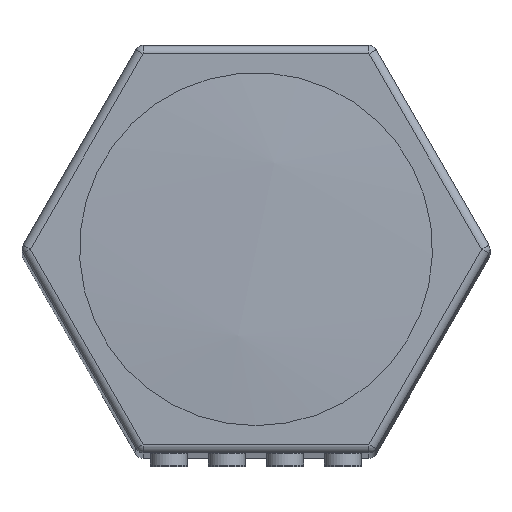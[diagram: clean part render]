
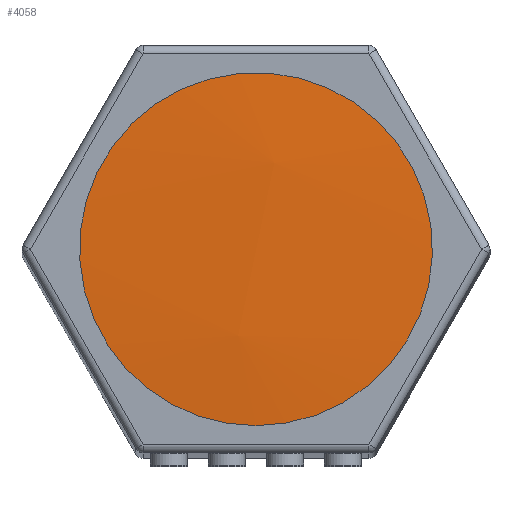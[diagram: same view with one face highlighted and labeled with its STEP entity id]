
A CAD part, top view. The second image highlights one B-rep face of the part: STEP entity #4058.
In plain terms, the highlighted spherical face has radius 140 mm.
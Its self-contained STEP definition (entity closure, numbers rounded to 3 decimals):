
#508=CARTESIAN_POINT('',(0.,0.,183.886));
#509=DIRECTION('',(0.,0.,1.));
#510=DIRECTION('',(0.,-1.,0.));
#511=AXIS2_PLACEMENT_3D('',#508,#509,#510);
#513=CARTESIAN_POINT('',(0.,0.,183.886));
#514=DIRECTION('',(0.,0.,1.));
#515=DIRECTION('',(-0.839,-0.543,0.));
#516=AXIS2_PLACEMENT_3D('',#513,#514,#515);
#1853=CARTESIAN_POINT('',(0.,-10.5,183.886));
#1854=CARTESIAN_POINT('',(-8.814,-5.706,183.886));
#1855=VERTEX_POINT('',#1853);
#1856=VERTEX_POINT('',#1854);
#4049=CARTESIAN_POINT('',(0.,0.,
44.28));
#4050=DIRECTION('',(0.979,-0.205,0.));
#4051=DIRECTION('',(0.015,0.073,0.997));
#4052=AXIS2_PLACEMENT_3D('',#4049,#4050,#4051);
#4053=SPHERICAL_SURFACE('',#4052,140.);
#4054=ORIENTED_EDGE('',*,*,#3828,.F.);
#4055=ORIENTED_EDGE('',*,*,#3830,.F.);
#4056=EDGE_LOOP('',(#4054,#4055));
#4057=FACE_OUTER_BOUND('',#4056,.F.);
#512=CIRCLE('',#511,10.5);
#517=CIRCLE('',#516,10.5);
#3828=EDGE_CURVE('',#1855,#1856,#512,.T.);
#3830=EDGE_CURVE('',#1856,#1855,#517,.T.);
#4058=ADVANCED_FACE('',(#4057),#4053,.T.);
